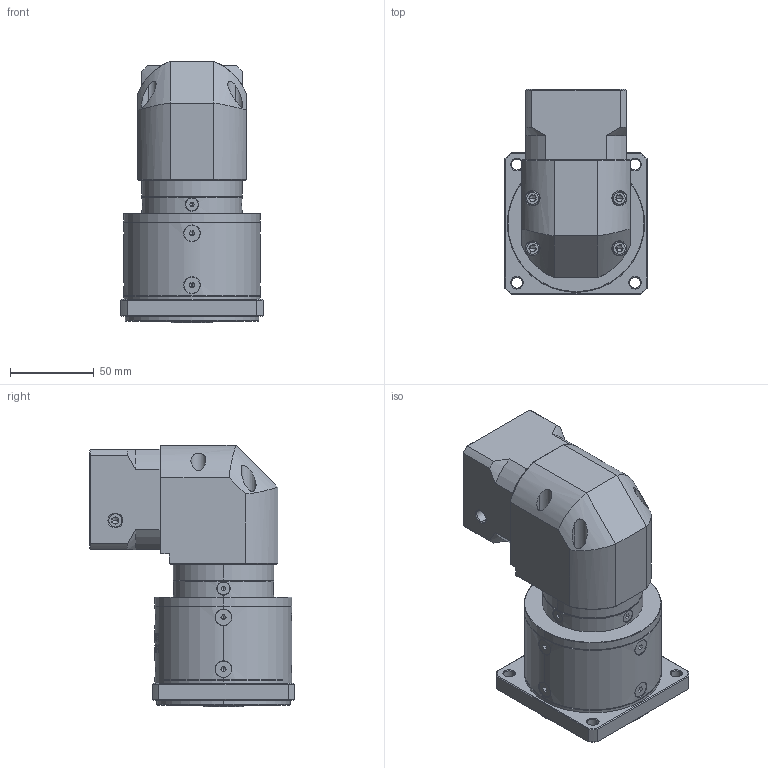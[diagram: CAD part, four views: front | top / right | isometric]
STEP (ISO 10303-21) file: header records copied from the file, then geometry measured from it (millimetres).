
FILE_DESCRIPTION (( 'STEP AP214' ), '1' );
FILE_NAME ('ZFR080-K15-L2-P2-11-50-70-M4.step', '2023-08-25T07:23:24', ( '' ), ( '' ), 'SwSTEP 2.0', 'SolidWorks 2016', '' );
FILE_SCHEMA (( 'AUTOMOTIVE_DESIGN' ));
Length unit declared in the file: millimetre
Products named in the file (1): ZFR080-K15-L2-P2-11-50-70-M4
Bounding box: 85 x 122.7 x 156.5 mm (x, y, z)
Volume: 768252.3 mm3; surface area: 100839.4 mm2
Topology: 17 solids, 18 shells, 2418 faces, 6342 edges, 4038 vertices
Faces by surface type: plane 1171, cylinder 436, bspline 390, cone 375, torus 46
Entity records: 122931 total; most frequent: CARTESIAN_POINT 41489, ORIENTED_EDGE 12596, DIRECTION 9763, EDGE_CURVE 6298, VERTEX_POINT 4038, LINE 3339, VECTOR 3339, AXIS2_PLACEMENT_3D 3212
